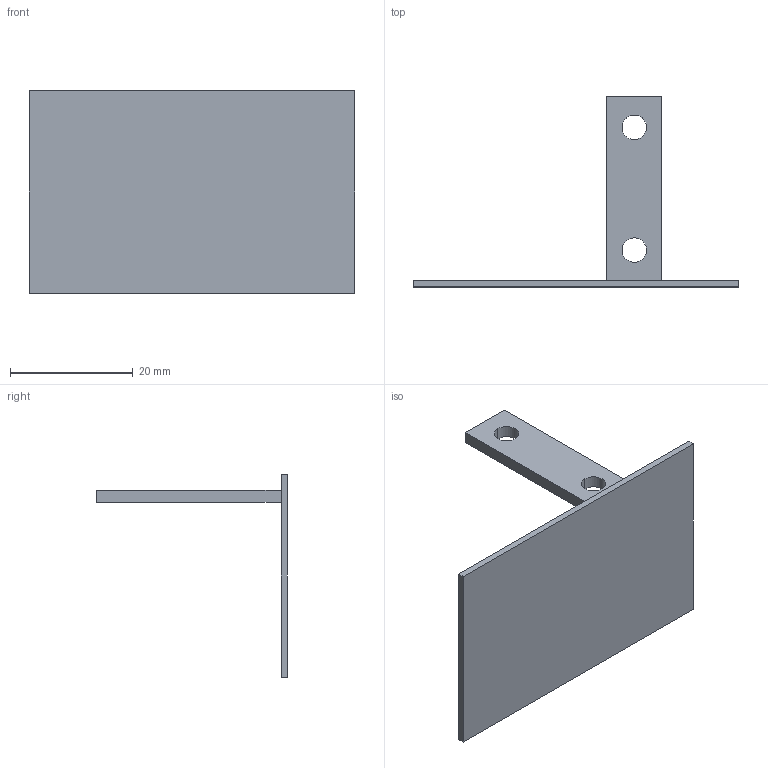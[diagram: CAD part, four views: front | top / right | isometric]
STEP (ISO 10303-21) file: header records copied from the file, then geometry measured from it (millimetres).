
FILE_DESCRIPTION(('STEP AP242'),'1');
FILE_NAME('OPO_65.082.46_volu_schn_3d.stp','2026-01-30T20:54:11',(' '),(' '),'Spatial InterOp 3D',' ',' ');
FILE_SCHEMA(('AP242_MANAGED_MODEL_BASED_3D_ENGINEERING_MIM_LF {1 0 10303 442 1 1 4}'));
Length unit declared in the file: millimetre
Products named in the file (1): 1
Bounding box: 53 x 31 x 33 mm (x, y, z)
Volume: 2238.7 mm3; surface area: 4366 mm2
Topology: 2 solids, 2 shells, 58 faces, 272 edges, 344 vertices
Faces by surface type: plane 34, cylinder 24
Entity records: 3773 total; most frequent: DIRECTION 464, CARTESIAN_POINT 431, ORIENTED_EDGE 296, LINE 202, VECTOR 202, STYLED_ITEM 182, PRESENTATION_STYLE_ASSIGNMENT 182, COLOUR_RGB 182
